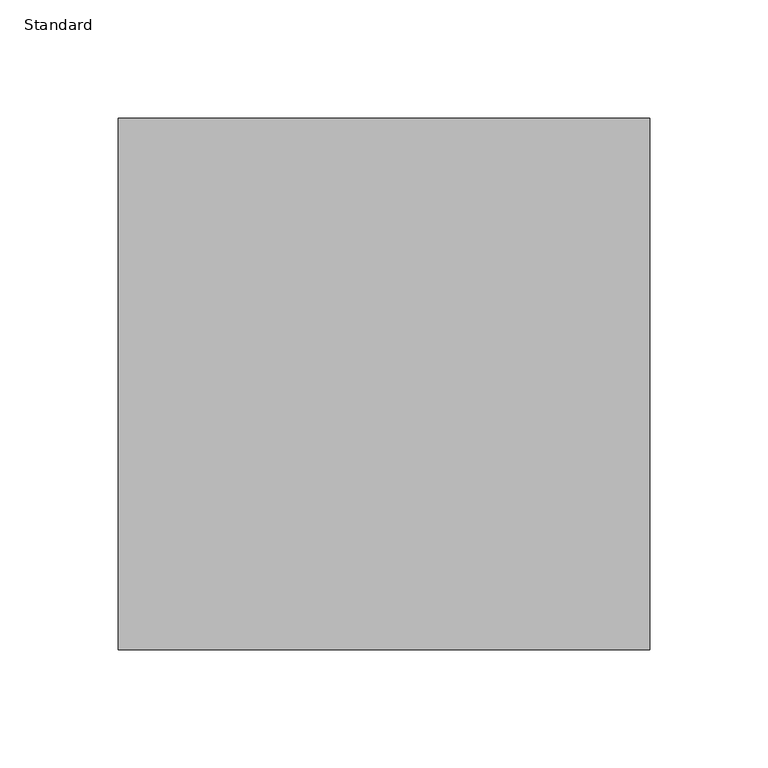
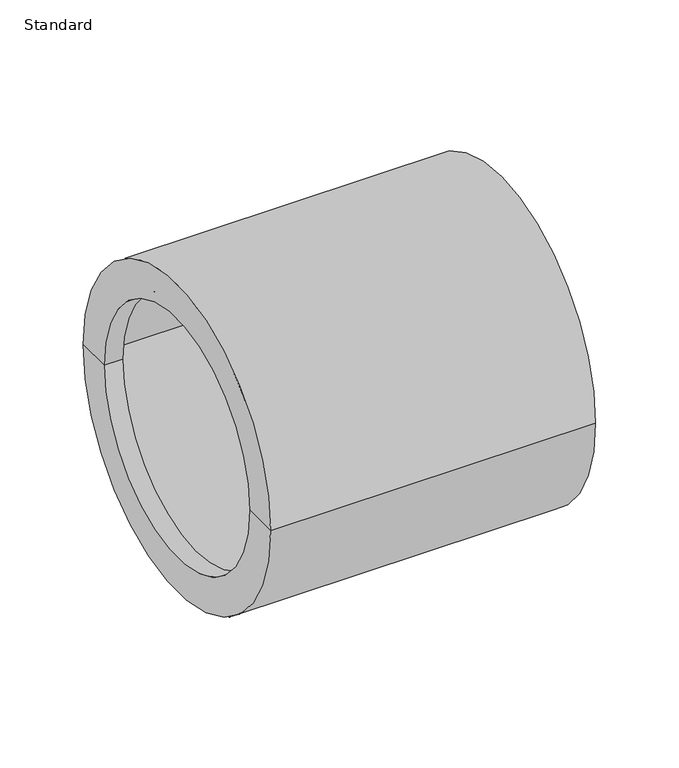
"""IFC4 building model written with IfcOpenShell, lengths in millimetres: pipe fitting geometry, Durapipe_PipeFitting_PVC_ReducingBush : Standard."""

from ifc_helpers import new_model, si_unit, frame, origin, place, context, project, spatial, polyline, circle_curve, source, transform, mapped, element, save
from ifc_brep_helpers import plane_surface, cylinder_surface, revolved_surface, advanced_brep


def standard_e12a8c18(model_context):
    return source(origin(), model_context, "Body", "AdvancedBrep", [
        advanced_brep(
        [(-13.0, -87.5, 0.0), (-13.0, 87.5, 0.0), (-13.0, 112.5, 0.0), (-13.0, -112.5, 0.0), (0.0, -87.5, 0.0), (0.0, 87.5, 0.0), (0.0, -100.0, 0.0), (0.0, 100.0, 0.0), (212.0, -100.0, 0.0), (212.0, 100.0, 0.0), (212.0, -112.5, 0.0), (212.0, 112.5, 0.0)],
        [
            (0, 1, circle_curve(frame((-13.0, 0.0, 0.0), z_axis=(1.0, 0.0, 0.0), x_axis=(0.0, 1.0, 0.0)), 87.5)),
            (1, 2),
            (2, 3, circle_curve(frame((-13.0, 0.0, 0.0), z_axis=(-1.0, 0.0, 0.0), x_axis=(0.0, 1.0, 0.0)), 112.5)),
            (3, 0),
            (1, 0, circle_curve(frame((-13.0, 0.0, 0.0), z_axis=(1.0, 0.0, 0.0), x_axis=(0.0, 1.0, 0.0)), 87.5)),
            (3, 2, circle_curve(frame((-13.0, 0.0, 0.0), z_axis=(-1.0, 0.0, 0.0), x_axis=(0.0, 1.0, 0.0)), 112.5)),
            (4, 5, circle_curve(frame((0.0, 0.0, 0.0), z_axis=(1.0, 0.0, 0.0), x_axis=(0.0, 1.0, 0.0)), 87.5)),
            (5, 1),
            (0, 4),
            (5, 4, circle_curve(frame((0.0, 0.0, 0.0), z_axis=(1.0, 0.0, 0.0), x_axis=(0.0, 1.0, 0.0)), 87.5)),
            (6, 7, circle_curve(frame((0.0, 0.0, 0.0), z_axis=(1.0, 0.0, 0.0), x_axis=(0.0, 1.0, 0.0)), 100.0)),
            (7, 5),
            (4, 6),
            (7, 6, circle_curve(frame((0.0, 0.0, 0.0), z_axis=(1.0, 0.0, 0.0), x_axis=(0.0, 1.0, 0.0)), 100.0)),
            (8, 9, circle_curve(frame((212.0, 0.0, 0.0), z_axis=(1.0, 0.0, 0.0), x_axis=(0.0, 1.0, 0.0)), 100.0)),
            (9, 7),
            (6, 8),
            (9, 8, circle_curve(frame((212.0, 0.0, 0.0), z_axis=(1.0, 0.0, 0.0), x_axis=(0.0, 1.0, 0.0)), 100.0)),
            (10, 11, circle_curve(frame((212.0, 0.0, 0.0), z_axis=(1.0, 0.0, 0.0), x_axis=(0.0, 1.0, 0.0)), 112.5)),
            (11, 9),
            (8, 10),
            (11, 10, circle_curve(frame((212.0, 0.0, 0.0), z_axis=(1.0, 0.0, 0.0), x_axis=(0.0, 1.0, 0.0)), 112.5)),
            (2, 11),
            (10, 3),
        ],
        [
            plane_surface(frame((-13.0, 0.0, 0.0), z_axis=(-1.0, 0.0, 0.0), x_axis=(0.0, 1.0, 0.0))),
            revolved_surface(polyline([(-13.0, 87.5, 0.0), (0.0, 87.5, 0.0)]), (2198.0, 0.0, 0.0), (-1.0, 0.0, 0.0)),
            plane_surface(frame((0.0, 0.0, 0.0), z_axis=(1.0, 0.0, 0.0), x_axis=(0.0, 1.0, 0.0))),
            revolved_surface(polyline([(0.0, 100.0, 0.0), (212.0, 100.0, 0.0)]), (2198.0, 0.0, 0.0), (-1.0, 0.0, 0.0)),
            plane_surface(frame((212.0, 0.0, 0.0), z_axis=(1.0, 0.0, 0.0), x_axis=(0.0, 1.0, 0.0))),
            cylinder_surface(frame((2198.0, 0.0, 0.0), z_axis=(-1.0, 0.0, 0.0), x_axis=(0.0, 1.0, 0.0)), 112.5),
        ],
        [
            (0, [[1, 2, 3, 4]]),
            (0, [[5, -4, 6, -2]]),
            (1, [[7, 8, -1, 9]]),
            (1, [[10, -9, -5, -8]]),
            (2, [[11, 12, -7, 13]]),
            (2, [[14, -13, -10, -12]]),
            (3, [[15, 16, -11, 17]]),
            (3, [[18, -17, -14, -16]]),
            (4, [[19, 20, -15, 21]]),
            (4, [[22, -21, -18, -20]]),
            (5, [[-3, 23, -19, 24]]),
            (5, [[-6, -24, -22, -23]]),
        ],
    ),
    ])


if __name__ == "__main__":
    model = new_model("IFC4")
    model_context = context("Model", 3, world=origin())
    ifc_project = project(units=[si_unit("LENGTHUNIT", "METRE", prefix="MILLI")], contexts=[model_context])
    site = spatial("IfcSite", under=ifc_project)
    building = spatial("IfcBuilding", under=site)
    placement = place(None, origin())
    standard_shape = standard_e12a8c18(model_context)
    element("IfcPipeFitting", 1, ObjectType="Durapipe_PipeFitting_PVC_ReducingBush : Standard", at=placement, inside=building, context=model_context, shape_type="MappedRepresentation", body=[
        mapped(standard_shape, transform((0.0, 0.0, 0.0), x_axis=(1.0, 0.0, 0.0), y_axis=(0.0, 1.0, 0.0), z_axis=(0.0, 0.0, 1.0))),
    ])
    save(model, "model.ifc")
